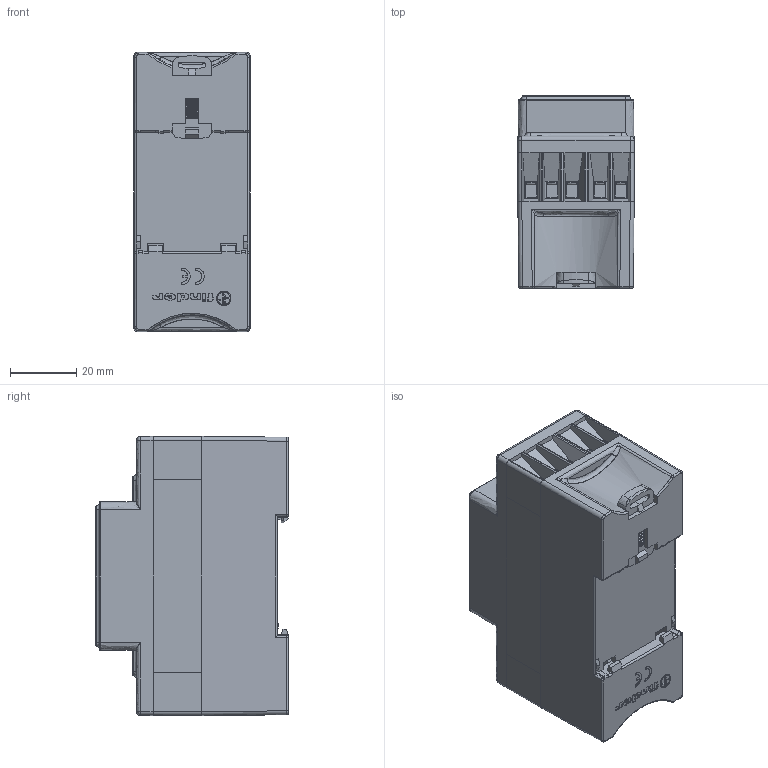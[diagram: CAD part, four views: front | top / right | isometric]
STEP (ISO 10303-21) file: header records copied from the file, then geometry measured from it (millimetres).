
FILE_DESCRIPTION(('STEP AP214'),'2;1');
FILE_NAME('7211.stp','2023-10-19T10:17:38',(''),(''),'2007.1.106','THINKDESIGN','');
FILE_SCHEMA(('AUTOMOTIVE_DESIGN'));
Length unit declared in the file: millimetre
Products named in the file (1): top
Bounding box: 35 x 58 x 84 mm (x, y, z)
Surface area: 26889.1 mm2 (no closed solid volume)
Topology: 0 solids, 0 shells, 1193 faces, 6782 edges, 6766 vertices
Faces by surface type: bspline 1193
Entity records: 52293 total; most frequent: CARTESIAN_POINT 34950, COMPOSITE_CURVE_SEGMENT 6766, QUASI_UNIFORM_CURVE 4647, B_SPLINE_CURVE_WITH_KNOTS 1310, OUTER_BOUNDARY_CURVE 1193, CURVE_BOUNDED_SURFACE 1193, STYLED_ITEM 1193, B_SPLINE_SURFACE_WITH_KNOTS 946
